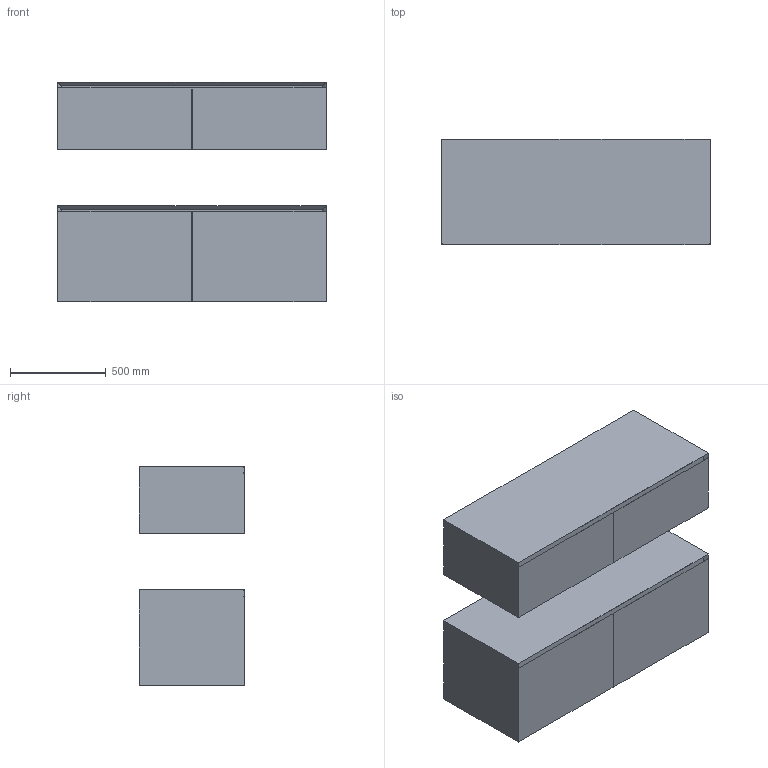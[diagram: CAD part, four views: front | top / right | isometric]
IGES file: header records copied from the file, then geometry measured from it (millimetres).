
Global section: file name: \\Archi-NAS\Comune\X GIOVANNI\MOBILI\EVOLINE\EVOLINE_12.igs; native system: Rhinoceros ( Feb 23 2021 ); preprocessor: Trout Lake IGES 012 Feb 23 2021; date: 230607.150559; units: millimetre
Bounding box: 1400 x 550 x 1143.94 mm (x, y, z)
Surface area: 13605708.8 mm2 (no closed solid volume)
Topology: 0 solids, 0 shells, 122 faces, 1072 edges, 1072 vertices
Faces by surface type: bspline 122
